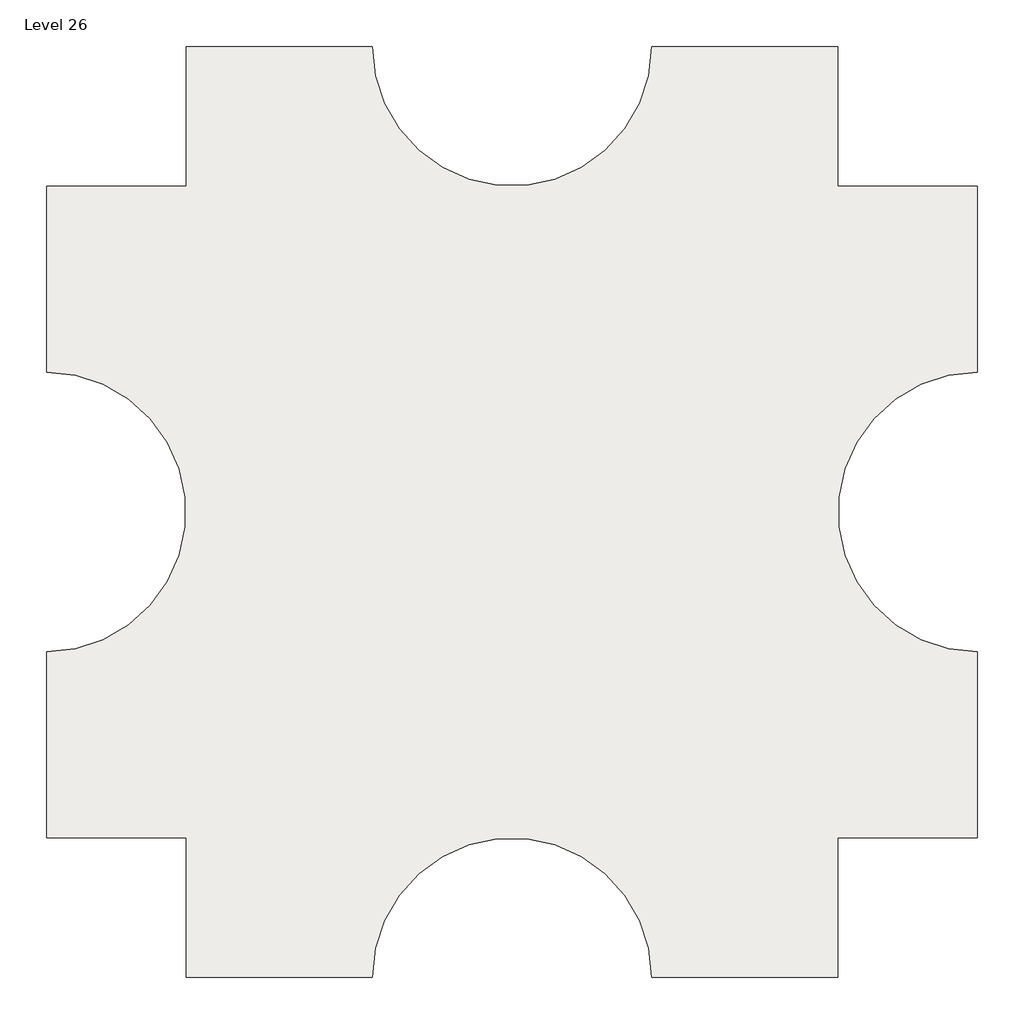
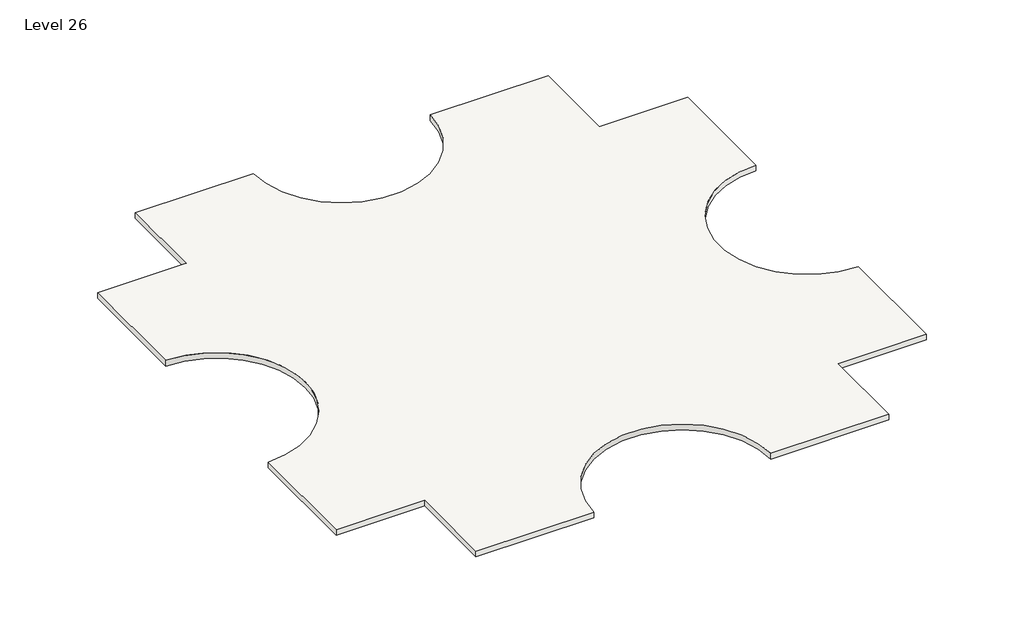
# One storey: 2 slabs.
"""IFC4 building model written with IfcOpenShell, lengths in millimetres."""

from ifc_helpers import new_model, si_unit, point, frame, frame_2d, origin, place, context, project, spatial, polyline, circle_curve, trimmed, segment, composite_curve, outline, extrude, element, save

model = new_model("IFC4")

# Units and contexts
model_context = context("Model", 3, world=origin())
ifc_project = project(units=[si_unit("LENGTHUNIT", "METRE", prefix="MILLI")], contexts=[model_context])

# Site, building, storey
site = spatial("IfcSite", under=ifc_project)
building = spatial("IfcBuilding", under=site)
storey = spatial("IfcBuildingStorey", under=building, Name="Level 26", Elevation=76200.0)

# Slabs
placement = place(None, origin())
element("IfcSlab", 1, ObjectType="Generic - 12\"", at=placement, inside=storey, context=model_context, shape_type="SweptSolid", body=[
    extrude(outline(composite_curve([segment(polyline([(-7150.3629456, 4479.6634547), (-7150.3629456, 9051.6634547), (-1054.3629456, 9051.6634547)]), True, "CONTINUOUS"), segment(trimmed(circle_curve(frame_2d((3517.6370544, 9051.6634547)), 4572.0), [point((-1054.3629456, 9051.6634547))], [point((8089.6370544, 9051.6634547))], True, "CARTESIAN"), True, "CONTINUOUS"), segment(polyline([(8089.6370544, 9051.6634547), (14185.6370544, 9051.6634547), (14185.6370544, 4479.6634547), (18757.6370544, 4479.6634547), (18757.6370544, -1616.3365453)]), True, "CONTINUOUS"), segment(trimmed(circle_curve(frame_2d((18757.6370544, -6188.3365453)), 4572.0), [point((18757.6370544, -1616.3365453))], [point((18757.6370544, -10760.3365453))], True, "CARTESIAN"), True, "CONTINUOUS"), segment(polyline([(18757.6370544, -10760.3365453), (18757.6370544, -16856.3365453), (14185.6370544, -16856.3365453), (14185.6370544, -21428.3365453), (8089.6370544, -21428.3365453)]), True, "CONTINUOUS"), segment(trimmed(circle_curve(frame_2d((3517.6370544, -21428.3365453)), 4572.0), [point((8089.6370544, -21428.3365453))], [point((-1054.3629456, -21428.3365453))], True, "CARTESIAN"), True, "CONTINUOUS"), segment(polyline([(-1054.3629456, -21428.3365453), (-7150.3629456, -21428.3365453), (-7150.3629456, -16856.3365453), (-11722.3629456, -16856.3365453), (-11722.3629456, -10760.3365453)]), True, "CONTINUOUS"), segment(trimmed(circle_curve(frame_2d((-11722.3629456, -6188.3365453)), 4572.0), [point((-11722.3629456, -10760.3365453))], [point((-11722.3629456, -1616.3365453))], True, "CARTESIAN"), True, "CONTINUOUS"), segment(polyline([(-11722.3629456, -1616.3365453), (-11722.3629456, 4479.6634547), (-7150.3629456, 4479.6634547)]), True, "CONTINUOUS")], self_intersect=False)), frame((0.0, 0.0, 75895.2), z_axis=(0.0, 0.0, 1.0), x_axis=(1.0, 0.0, 0.0)), (0.0, 0.0, 1.0), 304.8),
])
element("IfcSlab", 2, ObjectType="Generic - 12\"", at=placement, inside=storey, context=model_context, shape_type="SweptSolid", body=[
    extrude(outline(composite_curve([segment(polyline([(-7150.3629456, 4479.6634547), (-7150.3629456, 9051.6634547), (-1054.3629456, 9051.6634547)]), True, "CONTINUOUS"), segment(trimmed(circle_curve(frame_2d((3517.6370544, 9051.6634547)), 4572.0), [point((-1054.3629456, 9051.6634547))], [point((8089.6370544, 9051.6634547))], True, "CARTESIAN"), True, "CONTINUOUS"), segment(polyline([(8089.6370544, 9051.6634547), (14185.6370544, 9051.6634547), (14185.6370544, 4479.6634547), (18757.6370544, 4479.6634547), (18757.6370544, -1616.3365453)]), True, "CONTINUOUS"), segment(trimmed(circle_curve(frame_2d((18757.6370544, -6188.3365453)), 4572.0), [point((18757.6370544, -1616.3365453))], [point((18757.6370544, -10760.3365453))], True, "CARTESIAN"), True, "CONTINUOUS"), segment(polyline([(18757.6370544, -10760.3365453), (18757.6370544, -16856.3365453), (14185.6370544, -16856.3365453), (14185.6370544, -21428.3365453), (8089.6370544, -21428.3365453)]), True, "CONTINUOUS"), segment(trimmed(circle_curve(frame_2d((3517.6370544, -21428.3365453)), 4572.0), [point((8089.6370544, -21428.3365453))], [point((-1054.3629456, -21428.3365453))], True, "CARTESIAN"), True, "CONTINUOUS"), segment(polyline([(-1054.3629456, -21428.3365453), (-7150.3629456, -21428.3365453), (-7150.3629456, -16856.3365453), (-11722.3629456, -16856.3365453), (-11722.3629456, -10760.3365453)]), True, "CONTINUOUS"), segment(trimmed(circle_curve(frame_2d((-11722.3629456, -6188.3365453)), 4572.0), [point((-11722.3629456, -10760.3365453))], [point((-11722.3629456, -1616.3365453))], True, "CARTESIAN"), True, "CONTINUOUS"), segment(polyline([(-11722.3629456, -1616.3365453), (-11722.3629456, 4479.6634547), (-7150.3629456, 4479.6634547)]), True, "CONTINUOUS")], self_intersect=False)), frame((0.0, 0.0, 75895.2), z_axis=(0.0, 0.0, 1.0), x_axis=(1.0, 0.0, 0.0)), (0.0, 0.0, 1.0), 304.8),
])

save(model, "model.ifc")
